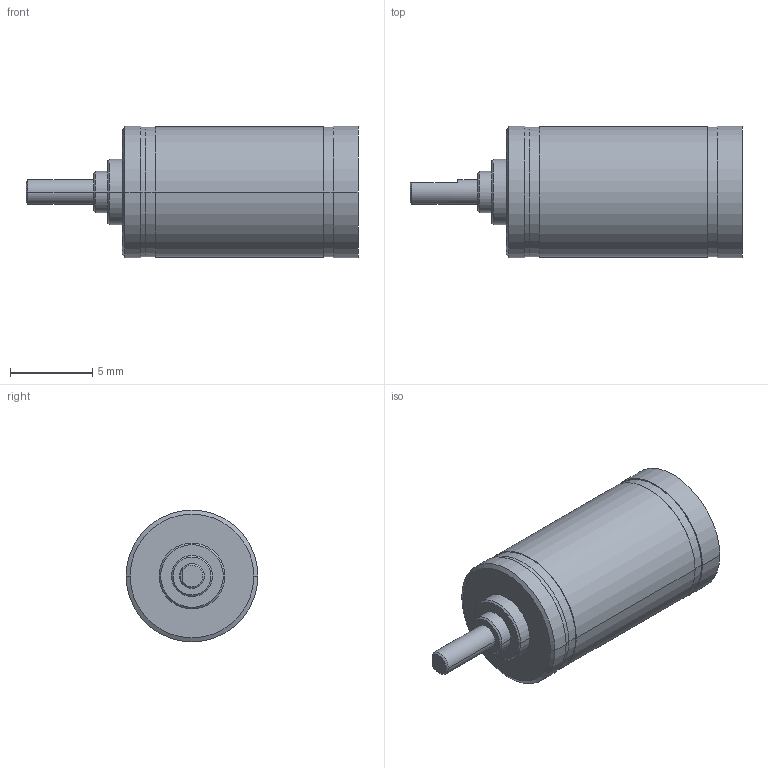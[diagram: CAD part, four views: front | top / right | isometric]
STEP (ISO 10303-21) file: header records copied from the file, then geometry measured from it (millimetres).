
FILE_DESCRIPTION((''),'2;1');
FILE_NAME('GP8A_3-STUFIG_381896','2013-05-21T',('MMAGPETK'),(''),'PRO/ENGINEER BY PARAMETRIC TECHNOLOGY CORPORATION, 2012010','PRO/ENGINEER BY PARAMETRIC TECHNOLOGY CORPORATION, 2012010','');
FILE_SCHEMA(('CONFIG_CONTROL_DESIGN'));
Length unit declared in the file: millimetre
Products named in the file (1): GP8A_3-STUFIG_381896
Bounding box: 20.15 x 8 x 8 mm (x, y, z)
Volume: 726.5 mm3; surface area: 527.5 mm2
Topology: 1 solids, 2 shells, 161 faces, 449 edges, 299 vertices
Faces by surface type: cylinder 111, extrusion 30, plane 13, cone 7
Entity records: 5447 total; most frequent: CARTESIAN_POINT 1155, DIRECTION 911, ORIENTED_EDGE 898, EDGE_CURVE 449, AXIS2_PLACEMENT_3D 365, VERTEX_POINT 299, CIRCLE 234, VECTOR 181
